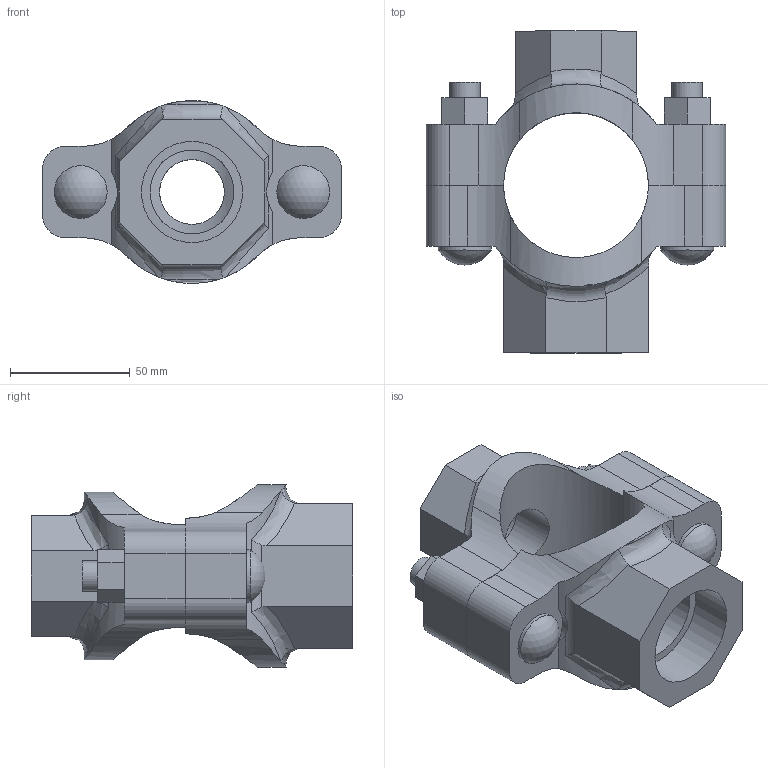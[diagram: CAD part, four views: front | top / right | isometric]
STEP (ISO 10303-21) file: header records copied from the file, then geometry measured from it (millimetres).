
FILE_DESCRIPTION(/* description */ ('VIC MECH-T BRANCH OUTLET CROSS STYLE 920N (THD)','CAx-IF Rec.Pracs.---Representation and Presentation of Product Manufacturing Information (PMI)---4.0---2014-10-13'),/* implementation_level */ '2;1');
FILE_NAME(/* name */ 'C:\Users\Vjadhav\AppData\Roaming\Autodesk\ApplicationPlugins\Back Up\Victaulic_IPS_Mechanical-Cross Outlet_Style 920N (FPT)\Victaulic_IPS_Mechanical-Cross Outlet_02.0x01.0x01.25 (50x25x32).stp',/* time_stamp */ '2020-08-06T18:56:07+05:00',/* author */ ('Vjadhav'),/* organization */ ('Victaulic'),/* preprocessor_version */ 'ST-DEVELOPER v17.2',/* originating_system */ 'Autodesk Inventor 2019',/* authorisation */ '');
FILE_SCHEMA (('AP242_MANAGED_MODEL_BASED_3D_ENGINEERING_MIM_LF { 1 0 10303 442 1 1 4 }'));
Length unit declared in the file: inch
Products named in the file (3): 920NT-02.0x01.0x01.25; 920NT-02.0x01.0; 920NT-02.0x01.25
Assembly tree (2 placements, depth 2):
  920NT-02.0x01.0x01.25
    920NT-02.0x01.0
    920NT-02.0x01.25
Bounding box: 124.71 x 134.11 x 76.17 mm (x, y, z)
Volume: 309072.1 mm3; surface area: 71614.6 mm2
Topology: 2 solids, 2 shells, 137 faces, 368 edges, 248 vertices
Faces by surface type: plane 68, cylinder 55, bspline 8, torus 4, sphere 2
Full cylindrical faces by diameter (mm): 12.7 x4, 21.982 x2, 26.987 x1, 33.401 x1, 34.925 x1, 42.164 x1
Entity records: 5306 total; most frequent: CARTESIAN_POINT 1667, ORIENTED_EDGE 736, DIRECTION 660, EDGE_CURVE 368, VERTEX_POINT 248, AXIS2_PLACEMENT_3D 236, LINE 188, VECTOR 188
